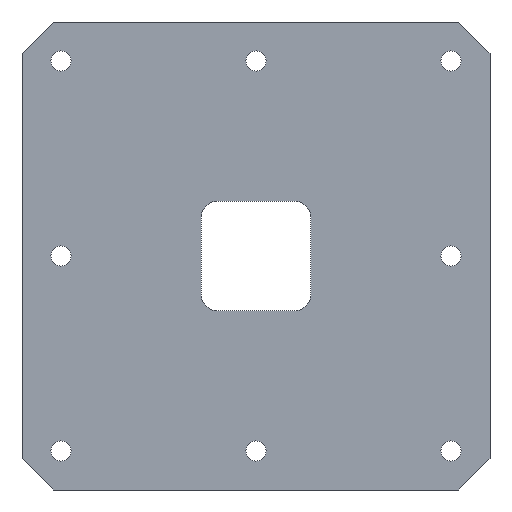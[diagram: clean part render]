
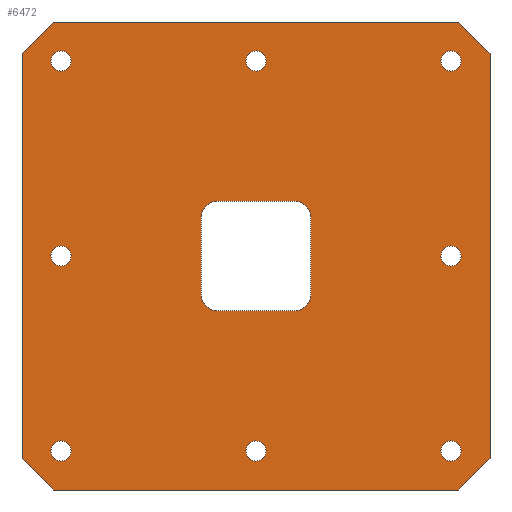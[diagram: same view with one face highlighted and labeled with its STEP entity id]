
A CAD part, front view. The second image highlights one B-rep face of the part: STEP entity #6472.
In plain terms, the highlighted planar face has unit normal (0, -1, 0).
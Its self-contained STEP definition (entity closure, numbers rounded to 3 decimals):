
#1=DIRECTION('',(-0.707,0.,-0.707));
#2=VECTOR('',#1,28.284);
#3=CARTESIAN_POINT('',(-130.,-25.,150.));
#4=LINE('',#3,#2);
#5=DIRECTION('',(1.,0.,0.));
#6=VECTOR('',#5,260.);
#7=CARTESIAN_POINT('',(-130.,-25.,150.));
#8=LINE('',#7,#6);
#9=DIRECTION('',(-0.707,0.,0.707));
#10=VECTOR('',#9,28.284);
#11=CARTESIAN_POINT('',(150.,-25.,130.));
#12=LINE('',#11,#10);
#13=DIRECTION('',(0.,0.,-1.));
#14=VECTOR('',#13,260.);
#15=CARTESIAN_POINT('',(150.,-25.,130.));
#16=LINE('',#15,#14);
#17=DIRECTION('',(0.707,0.,0.707));
#18=VECTOR('',#17,28.284);
#19=CARTESIAN_POINT('',(130.,-25.,-150.));
#20=LINE('',#19,#18);
#21=DIRECTION('',(-1.,0.,0.));
#22=VECTOR('',#21,260.);
#23=CARTESIAN_POINT('',(130.,-25.,-150.));
#24=LINE('',#23,#22);
#25=DIRECTION('',(0.707,0.,-0.707));
#26=VECTOR('',#25,28.284);
#27=CARTESIAN_POINT('',(-150.,-25.,-130.));
#28=LINE('',#27,#26);
#29=DIRECTION('',(0.,0.,1.));
#30=VECTOR('',#29,260.);
#31=CARTESIAN_POINT('',(-150.,-25.,-130.));
#32=LINE('',#31,#30);
#33=CARTESIAN_POINT('',(-125.,-25.,125.));
#34=DIRECTION('',(0.,1.,0.));
#35=DIRECTION('',(1.,0.,0.));
#36=AXIS2_PLACEMENT_3D('',#33,#34,#35);
#38=CARTESIAN_POINT('',(-125.,-25.,125.));
#39=DIRECTION('',(0.,1.,0.));
#40=DIRECTION('',(-1.,0.,0.));
#41=AXIS2_PLACEMENT_3D('',#38,#39,#40);
#43=CARTESIAN_POINT('',(0.,-25.,125.));
#44=DIRECTION('',(0.,1.,0.));
#45=DIRECTION('',(1.,0.,0.));
#46=AXIS2_PLACEMENT_3D('',#43,#44,#45);
#48=CARTESIAN_POINT('',(0.,-25.,125.));
#49=DIRECTION('',(0.,1.,0.));
#50=DIRECTION('',(-1.,0.,0.));
#51=AXIS2_PLACEMENT_3D('',#48,#49,#50);
#53=CARTESIAN_POINT('',(125.,-25.,125.));
#54=DIRECTION('',(0.,1.,0.));
#55=DIRECTION('',(1.,0.,0.));
#56=AXIS2_PLACEMENT_3D('',#53,#54,#55);
#58=CARTESIAN_POINT('',(125.,-25.,125.));
#59=DIRECTION('',(0.,1.,0.));
#60=DIRECTION('',(-1.,0.,0.));
#61=AXIS2_PLACEMENT_3D('',#58,#59,#60);
#63=CARTESIAN_POINT('',(-125.,-25.,-125.));
#64=DIRECTION('',(0.,1.,0.));
#65=DIRECTION('',(0.,0.,1.));
#66=AXIS2_PLACEMENT_3D('',#63,#64,#65);
#68=CARTESIAN_POINT('',(-125.,-25.,-125.));
#69=DIRECTION('',(0.,1.,0.));
#70=DIRECTION('',(0.,0.,-1.));
#71=AXIS2_PLACEMENT_3D('',#68,#69,#70);
#73=CARTESIAN_POINT('',(-125.,-25.,0.));
#74=DIRECTION('',(0.,1.,0.));
#75=DIRECTION('',(0.,0.,1.));
#76=AXIS2_PLACEMENT_3D('',#73,#74,#75);
#78=CARTESIAN_POINT('',(-125.,-25.,0.));
#79=DIRECTION('',(0.,1.,0.));
#80=DIRECTION('',(0.,0.,-1.));
#81=AXIS2_PLACEMENT_3D('',#78,#79,#80);
#83=CARTESIAN_POINT('',(125.,-25.,-125.));
#84=DIRECTION('',(0.,1.,0.));
#85=DIRECTION('',(-1.,0.,0.));
#86=AXIS2_PLACEMENT_3D('',#83,#84,#85);
#88=CARTESIAN_POINT('',(125.,-25.,-125.));
#89=DIRECTION('',(0.,1.,0.));
#90=DIRECTION('',(1.,0.,0.));
#91=AXIS2_PLACEMENT_3D('',#88,#89,#90);
#93=CARTESIAN_POINT('',(0.,-25.,-125.));
#94=DIRECTION('',(0.,1.,0.));
#95=DIRECTION('',(-1.,0.,0.));
#96=AXIS2_PLACEMENT_3D('',#93,#94,#95);
#98=CARTESIAN_POINT('',(0.,-25.,-125.));
#99=DIRECTION('',(0.,1.,0.));
#100=DIRECTION('',(1.,0.,0.));
#101=AXIS2_PLACEMENT_3D('',#98,#99,#100);
#103=CARTESIAN_POINT('',(125.,-25.,0.));
#104=DIRECTION('',(0.,1.,0.));
#105=DIRECTION('',(0.,0.,-1.));
#106=AXIS2_PLACEMENT_3D('',#103,#104,#105);
#108=CARTESIAN_POINT('',(125.,-25.,0.));
#109=DIRECTION('',(0.,1.,0.));
#110=DIRECTION('',(0.,0.,1.));
#111=AXIS2_PLACEMENT_3D('',#108,#109,#110);
#113=DIRECTION('',(-1.,0.,0.));
#114=VECTOR('',#113,50.);
#115=CARTESIAN_POINT('',(25.,-25.,-35.));
#116=LINE('',#115,#114);
#117=DIRECTION('',(0.,0.,-1.));
#118=VECTOR('',#117,50.);
#119=CARTESIAN_POINT('',(35.,-25.,25.));
#120=LINE('',#119,#118);
#121=DIRECTION('',(1.,0.,0.));
#122=VECTOR('',#121,50.);
#123=CARTESIAN_POINT('',(-25.,-25.,35.));
#124=LINE('',#123,#122);
#125=DIRECTION('',(0.,0.,1.));
#126=VECTOR('',#125,50.);
#127=CARTESIAN_POINT('',(-35.,-25.,-25.));
#128=LINE('',#127,#126);
#1040=CARTESIAN_POINT('',(25.,-25.,-25.));
#1041=DIRECTION('',(0.,1.,0.));
#1042=DIRECTION('',(1.,0.,0.));
#1043=AXIS2_PLACEMENT_3D('',#1040,#1041,#1042);
#1058=CARTESIAN_POINT('',(-25.,-25.,-25.));
#1059=DIRECTION('',(0.,1.,0.));
#1060=DIRECTION('',(0.,0.,-1.));
#1061=AXIS2_PLACEMENT_3D('',#1058,#1059,#1060);
#1076=CARTESIAN_POINT('',(-25.,-25.,25.));
#1077=DIRECTION('',(0.,1.,0.));
#1078=DIRECTION('',(-1.,0.,0.));
#1079=AXIS2_PLACEMENT_3D('',#1076,#1077,#1078);
#1094=CARTESIAN_POINT('',(25.,-25.,25.));
#1095=DIRECTION('',(0.,1.,0.));
#1096=DIRECTION('',(0.,0.,1.));
#1097=AXIS2_PLACEMENT_3D('',#1094,#1095,#1096);
#4989=CARTESIAN_POINT('',(-130.,-25.,150.));
#4990=CARTESIAN_POINT('',(-150.,-25.,130.));
#4991=VERTEX_POINT('',#4989);
#4992=VERTEX_POINT('',#4990);
#4997=CARTESIAN_POINT('',(-150.,-25.,-130.));
#4998=CARTESIAN_POINT('',(-130.,-25.,-150.));
#4999=VERTEX_POINT('',#4997);
#5000=VERTEX_POINT('',#4998);
#5005=CARTESIAN_POINT('',(130.,-25.,-150.));
#5006=CARTESIAN_POINT('',(150.,-25.,-130.));
#5007=VERTEX_POINT('',#5005);
#5008=VERTEX_POINT('',#5006);
#5013=CARTESIAN_POINT('',(150.,-25.,130.));
#5014=CARTESIAN_POINT('',(130.,-25.,150.));
#5015=VERTEX_POINT('',#5013);
#5016=VERTEX_POINT('',#5014);
#5029=CARTESIAN_POINT('',(-118.5,-25.,125.));
#5030=CARTESIAN_POINT('',(-131.5,-25.,125.));
#5031=VERTEX_POINT('',#5029);
#5032=VERTEX_POINT('',#5030);
#5045=CARTESIAN_POINT('',(6.5,-25.,125.));
#5046=CARTESIAN_POINT('',(-6.5,-25.,125.));
#5047=VERTEX_POINT('',#5045);
#5048=VERTEX_POINT('',#5046);
#5061=CARTESIAN_POINT('',(131.5,-25.,125.));
#5062=CARTESIAN_POINT('',(118.5,-25.,125.));
#5063=VERTEX_POINT('',#5061);
#5064=VERTEX_POINT('',#5062);
#5077=CARTESIAN_POINT('',(-125.,-25.,-118.5));
#5078=VERTEX_POINT('',#5077);
#5081=CARTESIAN_POINT('',(-125.,-25.,-131.5));
#5082=VERTEX_POINT('',#5081);
#5093=CARTESIAN_POINT('',(-125.,-25.,6.5));
#5094=VERTEX_POINT('',#5093);
#5097=CARTESIAN_POINT('',(-125.,-25.,-6.5));
#5098=VERTEX_POINT('',#5097);
#5109=CARTESIAN_POINT('',(118.5,-25.,-125.));
#5110=VERTEX_POINT('',#5109);
#5113=CARTESIAN_POINT('',(131.5,-25.,-125.));
#5114=VERTEX_POINT('',#5113);
#5125=CARTESIAN_POINT('',(-6.5,-25.,-125.));
#5126=VERTEX_POINT('',#5125);
#5129=CARTESIAN_POINT('',(6.5,-25.,-125.));
#5130=VERTEX_POINT('',#5129);
#5141=CARTESIAN_POINT('',(125.,-25.,-6.5));
#5142=VERTEX_POINT('',#5141);
#5145=CARTESIAN_POINT('',(125.,-25.,6.5));
#5146=VERTEX_POINT('',#5145);
#6332=CARTESIAN_POINT('',(-35.,-25.,-25.));
#6334=VERTEX_POINT('',#6332);
#6336=CARTESIAN_POINT('',(-25.,-25.,-35.));
#6338=VERTEX_POINT('',#6336);
#6340=CARTESIAN_POINT('',(25.,-25.,-35.));
#6342=VERTEX_POINT('',#6340);
#6344=CARTESIAN_POINT('',(35.,-25.,-25.));
#6346=VERTEX_POINT('',#6344);
#6348=CARTESIAN_POINT('',(35.,-25.,25.));
#6350=VERTEX_POINT('',#6348);
#6352=CARTESIAN_POINT('',(25.,-25.,35.));
#6354=VERTEX_POINT('',#6352);
#6356=CARTESIAN_POINT('',(-25.,-25.,35.));
#6358=VERTEX_POINT('',#6356);
#6360=CARTESIAN_POINT('',(-35.,-25.,25.));
#6362=VERTEX_POINT('',#6360);
#6383=CARTESIAN_POINT('',(0.,-25.,0.));
#6384=DIRECTION('',(0.,1.,0.));
#6385=DIRECTION('',(1.,0.,0.));
#6386=AXIS2_PLACEMENT_3D('',#6383,#6384,#6385);
#6387=PLANE('',#6386);
#6389=ORIENTED_EDGE('',*,*,#6388,.F.);
#6391=ORIENTED_EDGE('',*,*,#6390,.T.);
#6393=ORIENTED_EDGE('',*,*,#6392,.F.);
#6395=ORIENTED_EDGE('',*,*,#6394,.T.);
#6397=ORIENTED_EDGE('',*,*,#6396,.F.);
#6399=ORIENTED_EDGE('',*,*,#6398,.T.);
#6401=ORIENTED_EDGE('',*,*,#6400,.F.);
#6403=ORIENTED_EDGE('',*,*,#6402,.T.);
#6404=EDGE_LOOP('',(#6389,#6391,#6393,#6395,#6397,#6399,#6401,#6403));
#6405=FACE_OUTER_BOUND('',#6404,.F.);
#6407=ORIENTED_EDGE('',*,*,#6406,.F.);
#6409=ORIENTED_EDGE('',*,*,#6408,.F.);
#6410=EDGE_LOOP('',(#6407,#6409));
#6411=FACE_BOUND('',#6410,.F.);
#6413=ORIENTED_EDGE('',*,*,#6412,.F.);
#6415=ORIENTED_EDGE('',*,*,#6414,.F.);
#6416=EDGE_LOOP('',(#6413,#6415));
#6417=FACE_BOUND('',#6416,.F.);
#6419=ORIENTED_EDGE('',*,*,#6418,.F.);
#6421=ORIENTED_EDGE('',*,*,#6420,.F.);
#6422=EDGE_LOOP('',(#6419,#6421));
#6423=FACE_BOUND('',#6422,.F.);
#6425=ORIENTED_EDGE('',*,*,#6424,.F.);
#6427=ORIENTED_EDGE('',*,*,#6426,.F.);
#6428=EDGE_LOOP('',(#6425,#6427));
#6429=FACE_BOUND('',#6428,.F.);
#6431=ORIENTED_EDGE('',*,*,#6430,.F.);
#6433=ORIENTED_EDGE('',*,*,#6432,.F.);
#6434=EDGE_LOOP('',(#6431,#6433));
#6435=FACE_BOUND('',#6434,.F.);
#6437=ORIENTED_EDGE('',*,*,#6436,.F.);
#6439=ORIENTED_EDGE('',*,*,#6438,.F.);
#6440=EDGE_LOOP('',(#6437,#6439));
#6441=FACE_BOUND('',#6440,.F.);
#6443=ORIENTED_EDGE('',*,*,#6442,.F.);
#6445=ORIENTED_EDGE('',*,*,#6444,.F.);
#6446=EDGE_LOOP('',(#6443,#6445));
#6447=FACE_BOUND('',#6446,.F.);
#6449=ORIENTED_EDGE('',*,*,#6448,.F.);
#6451=ORIENTED_EDGE('',*,*,#6450,.F.);
#6452=EDGE_LOOP('',(#6449,#6451));
#6453=FACE_BOUND('',#6452,.F.);
#6455=ORIENTED_EDGE('',*,*,#6454,.F.);
#6457=ORIENTED_EDGE('',*,*,#6456,.F.);
#6459=ORIENTED_EDGE('',*,*,#6458,.F.);
#6461=ORIENTED_EDGE('',*,*,#6460,.F.);
#6463=ORIENTED_EDGE('',*,*,#6462,.F.);
#6465=ORIENTED_EDGE('',*,*,#6464,.F.);
#6467=ORIENTED_EDGE('',*,*,#6466,.F.);
#6469=ORIENTED_EDGE('',*,*,#6468,.F.);
#6470=EDGE_LOOP('',(#6455,#6457,#6459,#6461,#6463,#6465,#6467,#6469));
#6471=FACE_BOUND('',#6470,.F.);
#6472=ADVANCED_FACE('',(#6405,#6411,#6417,#6423,#6429,#6435,#6441,#6447,#6453,
#6471),#6387,.F.);
#37=CIRCLE('',#36,6.5);
#42=CIRCLE('',#41,6.5);
#47=CIRCLE('',#46,6.5);
#52=CIRCLE('',#51,6.5);
#57=CIRCLE('',#56,6.5);
#62=CIRCLE('',#61,6.5);
#67=CIRCLE('',#66,6.5);
#72=CIRCLE('',#71,6.5);
#77=CIRCLE('',#76,6.5);
#82=CIRCLE('',#81,6.5);
#87=CIRCLE('',#86,6.5);
#92=CIRCLE('',#91,6.5);
#97=CIRCLE('',#96,6.5);
#102=CIRCLE('',#101,6.5);
#107=CIRCLE('',#106,6.5);
#112=CIRCLE('',#111,6.5);
#1044=CIRCLE('',#1043,10.);
#1062=CIRCLE('',#1061,10.);
#1080=CIRCLE('',#1079,10.);
#1098=CIRCLE('',#1097,10.);
#6388=EDGE_CURVE('',#4991,#4992,#4,.T.);
#6390=EDGE_CURVE('',#4991,#5016,#8,.T.);
#6392=EDGE_CURVE('',#5015,#5016,#12,.T.);
#6394=EDGE_CURVE('',#5015,#5008,#16,.T.);
#6396=EDGE_CURVE('',#5007,#5008,#20,.T.);
#6398=EDGE_CURVE('',#5007,#5000,#24,.T.);
#6400=EDGE_CURVE('',#4999,#5000,#28,.T.);
#6402=EDGE_CURVE('',#4999,#4992,#32,.T.);
#6406=EDGE_CURVE('',#5031,#5032,#37,.T.);
#6408=EDGE_CURVE('',#5032,#5031,#42,.T.);
#6412=EDGE_CURVE('',#5047,#5048,#47,.T.);
#6414=EDGE_CURVE('',#5048,#5047,#52,.T.);
#6418=EDGE_CURVE('',#5063,#5064,#57,.T.);
#6420=EDGE_CURVE('',#5064,#5063,#62,.T.);
#6424=EDGE_CURVE('',#5078,#5082,#67,.T.);
#6426=EDGE_CURVE('',#5082,#5078,#72,.T.);
#6430=EDGE_CURVE('',#5094,#5098,#77,.T.);
#6432=EDGE_CURVE('',#5098,#5094,#82,.T.);
#6436=EDGE_CURVE('',#5110,#5114,#87,.T.);
#6438=EDGE_CURVE('',#5114,#5110,#92,.T.);
#6442=EDGE_CURVE('',#5126,#5130,#97,.T.);
#6444=EDGE_CURVE('',#5130,#5126,#102,.T.);
#6448=EDGE_CURVE('',#5142,#5146,#107,.T.);
#6450=EDGE_CURVE('',#5146,#5142,#112,.T.);
#6454=EDGE_CURVE('',#6342,#6338,#116,.T.);
#6456=EDGE_CURVE('',#6346,#6342,#1044,.T.);
#6458=EDGE_CURVE('',#6350,#6346,#120,.T.);
#6460=EDGE_CURVE('',#6354,#6350,#1098,.T.);
#6462=EDGE_CURVE('',#6358,#6354,#124,.T.);
#6464=EDGE_CURVE('',#6362,#6358,#1080,.T.);
#6466=EDGE_CURVE('',#6334,#6362,#128,.T.);
#6468=EDGE_CURVE('',#6338,#6334,#1062,.T.);
